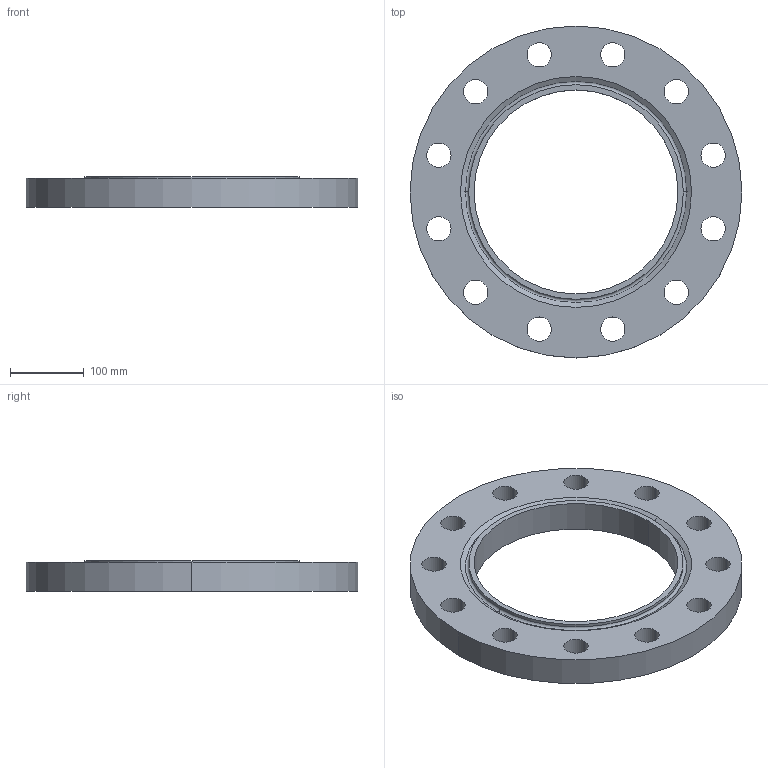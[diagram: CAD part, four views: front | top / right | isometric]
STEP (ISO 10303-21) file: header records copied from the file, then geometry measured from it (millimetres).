
FILE_DESCRIPTION (( 'STEP AP214' ), '1' );
FILE_NAME ('PN40 DN250 Type 01 - Type H Face.STEP', '2019-01-05T16:39:01', ( '' ), ( '' ), 'SwSTEP 2.0', 'SolidWorks 2019', '' );
FILE_SCHEMA (( 'AUTOMOTIVE_DESIGN' ));
Length unit declared in the file: millimetre
Products named in the file (1): PN40 DN250 Type 01 - Type H Face
Bounding box: 450 x 450 x 42 mm (x, y, z)
Volume: 3491569.8 mm3; surface area: 325367.1 mm2
Topology: 1 solids, 1 shells, 37 faces, 98 edges, 64 vertices
Faces by surface type: cylinder 30, plane 3, torus 2, cone 2
Entity records: 1272 total; most frequent: DIRECTION 240, CARTESIAN_POINT 200, ORIENTED_EDGE 196, AXIS2_PLACEMENT_3D 104, EDGE_CURVE 98, CIRCLE 66, VERTEX_POINT 64, EDGE_LOOP 64
